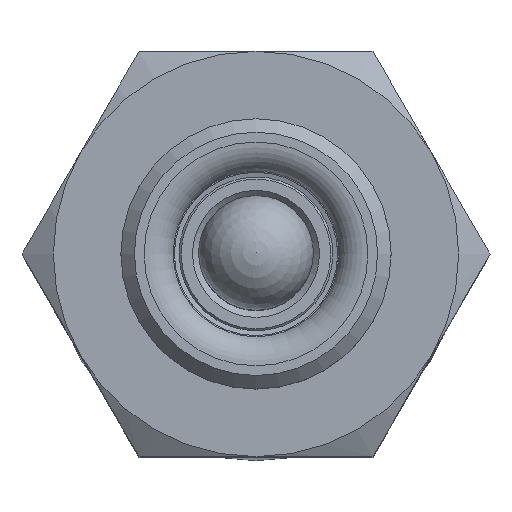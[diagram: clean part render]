
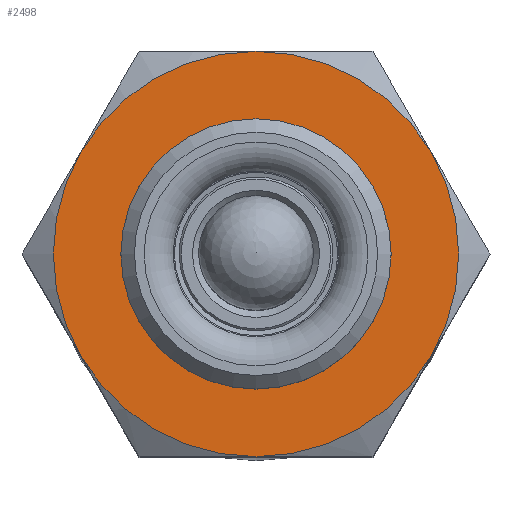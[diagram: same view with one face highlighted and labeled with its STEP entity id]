
A CAD part, top view. The second image highlights one B-rep face of the part: STEP entity #2498.
In plain terms, the highlighted planar face has unit normal (0, 0, 1) as drawn and (1, 0, 0) by its records, which use the part's own axes.
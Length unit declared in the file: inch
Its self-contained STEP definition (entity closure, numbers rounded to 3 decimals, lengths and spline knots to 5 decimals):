
#126=FACE_BOUND('',#596,.T.);
#186=PLANE('',#2893);
#393=FACE_OUTER_BOUND('',#595,.T.);
#595=EDGE_LOOP('',(#2099,#2100,#2101,#2102,#2103,#2104));
#596=EDGE_LOOP('',(#2105));
#1010=CIRCLE('',#2892,0.25006);
#1011=CIRCLE('',#2894,0.375);
#1012=CIRCLE('',#2895,0.375);
#1013=CIRCLE('',#2896,0.375);
#1014=CIRCLE('',#2897,0.375);
#1015=CIRCLE('',#2898,0.375);
#1016=CIRCLE('',#2899,0.375);
#1205=VERTEX_POINT('',#4839);
#1206=VERTEX_POINT('',#4843);
#1207=VERTEX_POINT('',#4844);
#1208=VERTEX_POINT('',#4846);
#1209=VERTEX_POINT('',#4848);
#1210=VERTEX_POINT('',#4850);
#1211=VERTEX_POINT('',#4852);
#1504=EDGE_CURVE('',#1205,#1205,#1010,.T.);
#1506=EDGE_CURVE('',#1206,#1207,#1011,.T.);
#1507=EDGE_CURVE('',#1207,#1208,#1012,.T.);
#1508=EDGE_CURVE('',#1208,#1209,#1013,.T.);
#1509=EDGE_CURVE('',#1209,#1210,#1014,.T.);
#1510=EDGE_CURVE('',#1210,#1211,#1015,.T.);
#1511=EDGE_CURVE('',#1211,#1206,#1016,.T.);
#2099=ORIENTED_EDGE('',*,*,#1506,.T.);
#2100=ORIENTED_EDGE('',*,*,#1507,.T.);
#2101=ORIENTED_EDGE('',*,*,#1508,.T.);
#2102=ORIENTED_EDGE('',*,*,#1509,.T.);
#2103=ORIENTED_EDGE('',*,*,#1510,.T.);
#2104=ORIENTED_EDGE('',*,*,#1511,.T.);
#2105=ORIENTED_EDGE('',*,*,#1504,.F.);
#2498=ADVANCED_FACE('',(#393,#126),#186,.T.);
#2892=AXIS2_PLACEMENT_3D('',#4840,#3640,#3641);
#2893=AXIS2_PLACEMENT_3D('',#4842,#3643,#3644);
#2894=AXIS2_PLACEMENT_3D('',#4845,#3645,#3646);
#2895=AXIS2_PLACEMENT_3D('',#4847,#3647,#3648);
#2896=AXIS2_PLACEMENT_3D('',#4849,#3649,#3650);
#2897=AXIS2_PLACEMENT_3D('',#4851,#3651,#3652);
#2898=AXIS2_PLACEMENT_3D('',#4853,#3653,#3654);
#2899=AXIS2_PLACEMENT_3D('',#4854,#3655,#3656);
#3640=DIRECTION('center_axis',(1.,0.,0.));
#3641=DIRECTION('ref_axis',(0.,0.,1.));
#3643=DIRECTION('center_axis',(1.,0.,0.));
#3644=DIRECTION('ref_axis',(0.,0.,-1.));
#3645=DIRECTION('center_axis',(1.,0.,0.));
#3646=DIRECTION('ref_axis',(0.,1.,0.));
#3647=DIRECTION('center_axis',(1.,0.,0.));
#3648=DIRECTION('ref_axis',(0.,1.,0.));
#3649=DIRECTION('center_axis',(1.,0.,0.));
#3650=DIRECTION('ref_axis',(0.,1.,0.));
#3651=DIRECTION('center_axis',(1.,0.,0.));
#3652=DIRECTION('ref_axis',(0.,1.,0.));
#3653=DIRECTION('center_axis',(1.,0.,0.));
#3654=DIRECTION('ref_axis',(0.,1.,0.));
#3655=DIRECTION('center_axis',(1.,0.,0.));
#3656=DIRECTION('ref_axis',(0.,1.,0.));
#4839=CARTESIAN_POINT('',(0.448,0.,-0.25006));
#4840=CARTESIAN_POINT('Origin',(0.448,0.,0.));
#4842=CARTESIAN_POINT('Origin',(0.448,0.,0.));
#4843=CARTESIAN_POINT('',(0.448,-0.32476,-0.1875));
#4844=CARTESIAN_POINT('',(0.448,0.,-0.375));
#4845=CARTESIAN_POINT('Origin',(0.448,0.,0.));
#4846=CARTESIAN_POINT('',(0.448,0.32476,-0.1875));
#4847=CARTESIAN_POINT('Origin',(0.448,0.,0.));
#4848=CARTESIAN_POINT('',(0.448,0.32476,0.1875));
#4849=CARTESIAN_POINT('Origin',(0.448,0.,0.));
#4850=CARTESIAN_POINT('',(0.448,0.,0.375));
#4851=CARTESIAN_POINT('Origin',(0.448,0.,0.));
#4852=CARTESIAN_POINT('',(0.448,-0.32476,0.1875));
#4853=CARTESIAN_POINT('Origin',(0.448,0.,0.));
#4854=CARTESIAN_POINT('Origin',(0.448,0.,0.));
